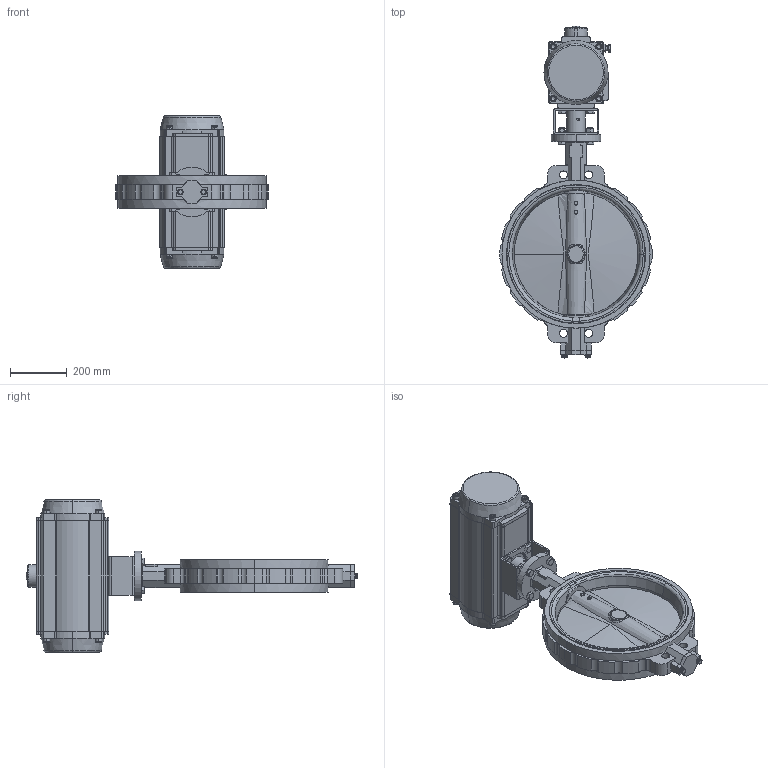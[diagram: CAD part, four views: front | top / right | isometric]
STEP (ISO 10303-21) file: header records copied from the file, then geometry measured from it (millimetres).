
FILE_DESCRIPTION (( 'STEP AP214' ), '1' );
FILE_NAME ('VPE440X-N03XX0450.STEP', '2020-08-17T15:04:14', ( '' ), ( '' ), 'SwSTEP 2.0', 'SolidWorks 2017', '' );
FILE_SCHEMA (( 'AUTOMOTIVE_DESIGN' ));
Length unit declared in the file: millimetre
Products named in the file (1): VPE440X-N03XX0450
Bounding box: 536.83 x 1169.97 x 536 mm (x, y, z)
Surface area: 1908702.1 mm2 (no closed solid volume)
Topology: 0 solids, 69 shells, 784 faces, 2418 edges, 1658 vertices
Faces by surface type: plane 309, cylinder 259, cone 123, bspline 67, torus 26
Entity records: 43718 total; most frequent: CARTESIAN_POINT 14364, DIRECTION 4292, ORIENTED_EDGE 4025, EDGE_CURVE 2418, AXIS2_PLACEMENT_3D 1714, VERTEX_POINT 1658, CIRCLE 996, EDGE_LOOP 907
